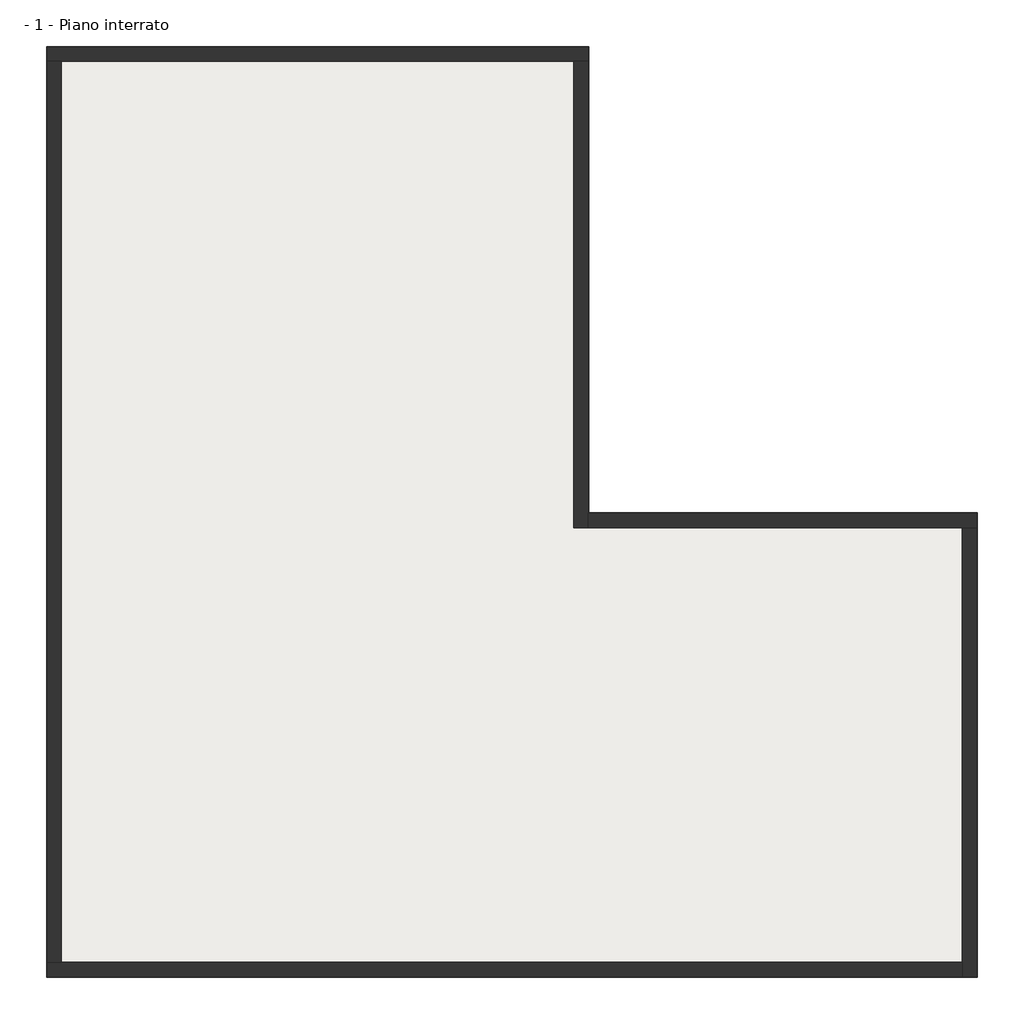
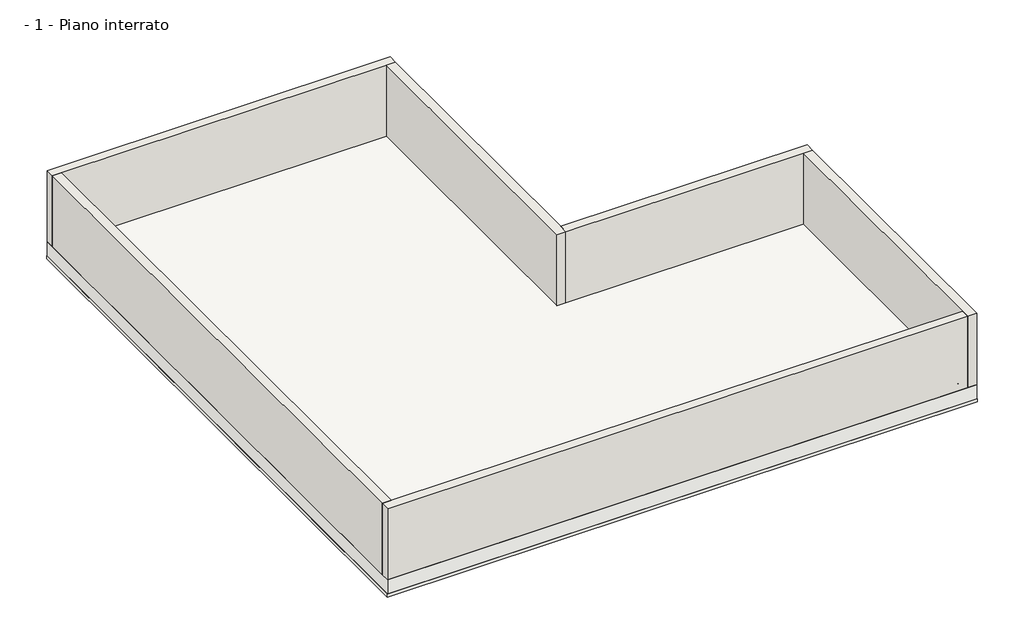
# One storey: 6 walls, 3 proxies, 2 slabs.
"""IFC4 building model written with IfcOpenShell, lengths in millimetres."""

from ifc_helpers import new_model, si_unit, frame, origin, place, context, project, spatial, polyline, outline, extrude, faceted_brep, transform, mapped, element, save
from components import generic_models_3b7ed561

model = new_model("IFC4")

# Units and contexts
model_context = context("Model", 3, world=origin())
ifc_project = project(units=[si_unit("LENGTHUNIT", "METRE", prefix="MILLI")], contexts=[model_context])

# Site, building, storey
site = spatial("IfcSite", under=ifc_project)
building = spatial("IfcBuilding", under=site)
storey = spatial("IfcBuildingStorey", under=building, Name="- 1 - Piano interrato", Elevation=-2500.0)

# Proxies
placement = place(None, origin())
element("IfcBuildingElementProxy", 1, Name="WT CONSTRUCTION VOLTECO", ObjectType="WT CONSTRUCTION VOLTECO", at=placement, inside=storey, context=model_context, shape_type="SweptSolid", body=[
    extrude(outline(polyline([(1584.8707384, -6023.4559577), (1609.8707384, -5998.4559577), (1609.8707384, -15493.2761472), (1584.8707384, -15468.2761472), (1584.8707384, -6023.4559577)])), frame((0.0, 0.0, -2500.0), z_axis=(0.0, 0.0, 1.0), x_axis=(1.0, 0.0, 0.0)), (0.0, 0.0, 1.0), 15.0),
    extrude(outline(polyline([(-6604.0891533, -6023.4559577), (-6579.0891533, -5998.4559577), (1609.8707384, -5998.4559577), (1584.8707384, -6023.4559577), (-6604.0891533, -6023.4559577)])), frame((0.0, 0.0, -2500.0), z_axis=(0.0, 0.0, 1.0), x_axis=(1.0, 0.0, 0.0)), (0.0, 0.0, 1.0), 15.0),
    extrude(outline(polyline([(-6604.0891533, 3800.503934), (-6579.0891533, 3825.503934), (-6579.0891533, -5998.4559577), (-6604.0891533, -6023.4559577), (-6604.0891533, 3800.503934)])), frame((0.0, 0.0, -2500.0), z_axis=(0.0, 0.0, 1.0), x_axis=(1.0, 0.0, 0.0)), (0.0, 0.0, 1.0), 15.0),
    extrude(outline(polyline([(-17680.0089367, 3800.503934), (-17705.0089367, 3825.503934), (-6579.0891533, 3825.503934), (-6604.0891533, 3800.503934), (-17680.0089367, 3800.503934)])), frame((0.0, 0.0, -2500.0), z_axis=(0.0, 0.0, 1.0), x_axis=(1.0, 0.0, 0.0)), (0.0, 0.0, 1.0), 15.0),
    extrude(outline(polyline([(-17680.0089367, -15468.2761472), (-17705.0089367, -15493.2761472), (-17705.0089367, 3825.503934), (-17680.0089367, 3800.503934), (-17680.0089367, -15468.2761472)])), frame((0.0, 0.0, -2500.0), z_axis=(0.0, 0.0, 1.0), x_axis=(1.0, 0.0, 0.0)), (0.0, 0.0, 1.0), 15.0),
    extrude(outline(polyline([(1584.8707384, -15468.2761472), (1609.8707384, -15493.2761472), (-17705.0089367, -15493.2761472), (-17680.0089367, -15468.2761472), (1584.8707384, -15468.2761472)])), frame((0.0, 0.0, -2500.0), z_axis=(0.0, 0.0, 1.0), x_axis=(1.0, 0.0, 0.0)), (0.0, 0.0, 1.0), 15.0),
])
generic_models_shape = generic_models_3b7ed561(model_context)
element("IfcBuildingElementProxy", 2, Name="ITA-Connettori su parete verticale sigillati con AKTI-VO 201 : ITA-Connettori su parete verticale sigillati con AKTI-VO 201", ObjectType="ITA-Connettori su parete verticale sigillati con AKTI-VO 201 : ITA-Connettori su parete verticale sigillati con AKTI-VO 201", at=placement, inside=storey, context=model_context, shape_type="MappedRepresentation", body=[
    mapped(generic_models_shape, transform((1122.4910633, -15630.7761472, -2255.1972589), x_axis=(-1.0, 0.0, 0.0), y_axis=(0.0, 0.0, 1.0), z_axis=(0.0, 1.0, 0.0))),
])
element("IfcBuildingElementProxy", 3, Name="ITA-Connettori su struttura orizzontale sigillati con AKTI-VO 201 : ITA-Connettori su struttura orizzontale sigillati con AKTI-VO 201", ObjectType="ITA-Connettori su struttura orizzontale sigillati con AKTI-VO 201 : ITA-Connettori su struttura orizzontale sigillati con AKTI-VO 201", at=placement, inside=storey, context=model_context, shape_type="MappedRepresentation", body=[
    mapped(generic_models_shape, transform((1122.4910633, -14710.7761472, -3000.0), x_axis=(-1.0, 0.0, 0.0), y_axis=(0.0, -1.0, 0.0), z_axis=(0.0, 0.0, 1.0))),
])

# Slabs
element("IfcSlab", 4, ObjectType="Magrone - 10 cm", at=placement, inside=storey, context=model_context, shape_type="SweptSolid", body=[
    extrude(outline(polyline([(-17857.5089367, 3978.003934), (-6426.5891533, 3978.003934), (-6426.5891533, -5845.9559577), (1762.3707384, -5845.9559577), (1762.3707384, -15645.7761472), (-17857.5089367, -15645.7761472), (-17857.5089367, 3978.003934)])), frame((0.0, 0.0, -3100.0), z_axis=(0.0, 0.0, 1.0), x_axis=(1.0, 0.0, 0.0)), (0.0, 0.0, 1.0), 100.0),
])
element("IfcSlab", 5, ObjectType="Platea - 50 cm", at=placement, inside=storey, context=model_context, shape_type="SweptSolid", body=[
    extrude(outline(polyline([(-17842.5089367, -15630.7761472), (-17842.5089367, 3963.003934), (-6441.5891533, 3963.003934), (-6441.5891533, -5860.9559577), (1747.3707384, -5860.9559577), (1747.3707384, -15630.7761472), (-17842.5089367, -15630.7761472)])), frame((0.0, 0.0, -3000.0), z_axis=(0.0, 0.0, 1.0), x_axis=(1.0, 0.0, 0.0)), (0.0, 0.0, 1.0), 500.0),
])

# Walls
element("IfcWall", 6, ObjectType="Generico - 30 cm", at=placement, inside=storey, context=model_context, shape_type="Brep", body=[
    faceted_brep([(-6441.5891533, 3663.003934, 0.0), (-6741.5891533, 3663.003934, 0.0), (-17542.5089367, 3663.003934, 0.0), (-17842.5089367, 3663.003934, 0.0), (-17842.5089367, 3663.003934, -2500.0), (-17705.0089367, 3663.003934, -2500.0), (-17705.0089367, 3663.003934, -2485.0), (-17680.0089367, 3663.003934, -2485.0), (-17680.0089367, 3663.003934, -2500.0), (-17542.5089367, 3663.003934, -2500.0), (-6741.5891533, 3663.003934, -2500.0), (-6604.0891533, 3663.003934, -2500.0), (-6604.0891533, 3663.003934, -2485.0), (-6579.0891533, 3663.003934, -2485.0), (-6579.0891533, 3663.003934, -2500.0), (-6441.5891533, 3663.003934, -2500.0), (-6441.5891533, 3963.003934, -2500.0), (-17842.5089367, 3963.003934, -2500.0), (-17842.5089367, 3963.003934, 0.0), (-6441.5891533, 3963.003934, 0.0), (-6579.0891533, 3825.503934, -2500.0), (-17705.0089367, 3825.503934, -2500.0), (-17680.0089367, 3800.503934, -2500.0), (-6604.0891533, 3800.503934, -2500.0), (-6604.0891533, 3800.503934, -2485.0), (-17680.0089367, 3800.503934, -2485.0), (-17705.0089367, 3825.503934, -2485.0), (-6579.0891533, 3825.503934, -2485.0)], [[[0, 1, 2, 3, 4, 5, 6, 7, 8, 9, 10, 11, 12, 13, 14, 15]], [[16, 17, 18, 19]], [[17, 16, 15, 14, 20, 21, 5, 4]], [[11, 10, 9, 8, 22, 23]], [[3, 2, 1, 0, 19, 18]], [[4, 3, 18, 17]], [[0, 15, 16, 19]], [[24, 25, 7, 6, 26, 27, 13, 12]], [[21, 26, 6, 5]], [[27, 26, 21, 20]], [[27, 20, 14, 13]], [[25, 22, 8, 7]], [[22, 25, 24, 23]], [[23, 24, 12, 11]]]),
])
element("IfcWall", 7, ObjectType="Generico - 30 cm", at=placement, inside=storey, context=model_context, shape_type="Brep", body=[
    faceted_brep([(-6741.5891533, 3663.003934, -2500.0), (-6741.5891533, -6160.9559577, -2500.0), (-6741.5891533, -6160.9559577, 0.0), (-6741.5891533, 3663.003934, 0.0), (-6441.5891533, 3663.003934, 0.0), (-6441.5891533, -5860.9559577, 0.0), (-6441.5891533, -6160.9559577, 0.0), (-6441.5891533, -6160.9559577, -2500.0), (-6441.5891533, -6023.4559577, -2500.0), (-6441.5891533, -6023.4559577, -2485.0), (-6441.5891533, -5998.4559577, -2485.0), (-6441.5891533, -5998.4559577, -2500.0), (-6441.5891533, -5860.9559577, -2500.0), (-6441.5891533, 3663.003934, -2500.0), (-6604.0891533, 3663.003934, -2500.0), (-6604.0891533, -6023.4559577, -2500.0), (-6579.0891533, -5998.4559577, -2500.0), (-6579.0891533, 3663.003934, -2500.0), (-6579.0891533, 3663.003934, -2485.0), (-6604.0891533, 3663.003934, -2485.0), (-6604.0891533, -6023.4559577, -2485.0), (-6579.0891533, -5998.4559577, -2485.0)], [[[0, 1, 2, 3]], [[4, 5, 6, 7, 8, 9, 10, 11, 12, 13]], [[1, 0, 14, 15, 8, 7]], [[13, 12, 11, 16, 17]], [[3, 2, 6, 5, 4]], [[2, 1, 7, 6]], [[0, 3, 4, 13, 17, 18, 19, 14]], [[9, 20, 19, 18, 21, 10]], [[16, 21, 18, 17]], [[21, 16, 11, 10]], [[20, 15, 14, 19]], [[15, 20, 9, 8]]]),
])
element("IfcWall", 8, ObjectType="Generico - 30 cm", at=placement, inside=storey, context=model_context, shape_type="Brep", body=[
    faceted_brep([(1747.3707384, -6160.9559577, 0.0), (1447.3707384, -6160.9559577, 0.0), (-6441.5891533, -6160.9559577, 0.0), (-6441.5891533, -6160.9559577, -2500.0), (1447.3707384, -6160.9559577, -2500.0), (1584.8707384, -6160.9559577, -2500.0), (1584.8707384, -6160.9559577, -2485.0), (1609.8707384, -6160.9559577, -2485.0), (1609.8707384, -6160.9559577, -2500.0), (1747.3707384, -6160.9559577, -2500.0), (1747.3707384, -5860.9559577, -2500.0), (-6441.5891533, -5860.9559577, -2500.0), (-6441.5891533, -5860.9559577, 0.0), (1747.3707384, -5860.9559577, 0.0), (1609.8707384, -5998.4559577, -2500.0), (-6441.5891533, -5998.4559577, -2500.0), (-6441.5891533, -6023.4559577, -2500.0), (1584.8707384, -6023.4559577, -2500.0), (-6441.5891533, -5998.4559577, -2485.0), (-6441.5891533, -6023.4559577, -2485.0), (1584.8707384, -6023.4559577, -2485.0), (1609.8707384, -5998.4559577, -2485.0)], [[[0, 1, 2, 3, 4, 5, 6, 7, 8, 9]], [[10, 11, 12, 13]], [[11, 10, 9, 8, 14, 15]], [[5, 4, 3, 16, 17]], [[2, 1, 0, 13, 12]], [[3, 2, 12, 11, 15, 18, 19, 16]], [[0, 9, 10, 13]], [[6, 20, 19, 18, 21, 7]], [[14, 21, 18, 15]], [[21, 14, 8, 7]], [[20, 17, 16, 19]], [[17, 20, 6, 5]]]),
])
element("IfcWall", 9, ObjectType="Generico - 30 cm", at=placement, inside=storey, context=model_context, shape_type="Brep", body=[
    faceted_brep([(1447.3707384, -15630.7761472, 0.0), (1447.3707384, -15330.7761472, 0.0), (1447.3707384, -6160.9559577, 0.0), (1447.3707384, -6160.9559577, -2500.0), (1447.3707384, -15330.7761472, -2500.0), (1447.3707384, -15468.2761472, -2500.0), (1447.3707384, -15468.2761472, -2485.0), (1447.3707384, -15493.2761472, -2485.0), (1447.3707384, -15493.2761472, -2500.0), (1447.3707384, -15630.7761472, -2500.0), (1747.3707384, -15630.7761472, -2500.0), (1747.3707384, -6160.9559577, -2500.0), (1747.3707384, -6160.9559577, 0.0), (1747.3707384, -15630.7761472, 0.0), (1609.8707384, -15493.2761472, -2500.0), (1609.8707384, -6160.9559577, -2500.0), (1584.8707384, -6160.9559577, -2500.0), (1584.8707384, -15468.2761472, -2500.0), (1609.8707384, -6160.9559577, -2485.0), (1584.8707384, -6160.9559577, -2485.0), (1584.8707384, -15468.2761472, -2485.0), (1609.8707384, -15493.2761472, -2485.0)], [[[0, 1, 2, 3, 4, 5, 6, 7, 8, 9]], [[10, 11, 12, 13]], [[11, 10, 9, 8, 14, 15]], [[5, 4, 3, 16, 17]], [[2, 1, 0, 13, 12]], [[3, 2, 12, 11, 15, 18, 19, 16]], [[0, 9, 10, 13]], [[6, 20, 19, 18, 21, 7]], [[14, 21, 18, 15]], [[21, 14, 8, 7]], [[20, 17, 16, 19]], [[17, 20, 6, 5]]]),
])
element("IfcWall", 10, ObjectType="Generico - 30 cm", at=placement, inside=storey, context=model_context, shape_type="Brep", body=[
    faceted_brep([(-17842.5089367, -15330.7761472, 0.0), (-17542.5089367, -15330.7761472, 0.0), (1447.3707384, -15330.7761472, 0.0), (1447.3707384, -15330.7761472, -2500.0), (-17542.5089367, -15330.7761472, -2500.0), (-17680.0089367, -15330.7761472, -2500.0), (-17680.0089367, -15330.7761472, -2485.0), (-17705.0089367, -15330.7761472, -2485.0), (-17705.0089367, -15330.7761472, -2500.0), (-17842.5089367, -15330.7761472, -2500.0), (-17842.5089367, -15630.7761472, -2500.0), (1447.3707384, -15630.7761472, -2500.0), (1447.3707384, -15630.7761472, 0.0), (-17842.5089367, -15630.7761472, 0.0), (-17705.0089367, -15493.2761472, -2500.0), (1447.3707384, -15493.2761472, -2500.0), (1447.3707384, -15468.2761472, -2500.0), (-17680.0089367, -15468.2761472, -2500.0), (1447.3707384, -15493.2761472, -2485.0), (1447.3707384, -15468.2761472, -2485.0), (-17680.0089367, -15468.2761472, -2485.0), (-17705.0089367, -15493.2761472, -2485.0)], [[[0, 1, 2, 3, 4, 5, 6, 7, 8, 9]], [[10, 11, 12, 13]], [[11, 10, 9, 8, 14, 15]], [[5, 4, 3, 16, 17]], [[2, 1, 0, 13, 12]], [[3, 2, 12, 11, 15, 18, 19, 16]], [[0, 9, 10, 13]], [[6, 20, 19, 18, 21, 7]], [[14, 21, 18, 15]], [[21, 14, 8, 7]], [[20, 17, 16, 19]], [[17, 20, 6, 5]]]),
])
element("IfcWall", 11, ObjectType="Generico - 30 cm", at=placement, inside=storey, context=model_context, shape_type="SweptSolid", body=[
    extrude(outline(polyline([(-2500.0, -17542.5089367), (0.0, -17542.5089367), (0.0, -17842.5089367), (-2500.0, -17842.5089367), (-2500.0, -17705.0089367), (-2485.0, -17705.0089367), (-2485.0, -17680.0089367), (-2500.0, -17680.0089367), (-2500.0, -17542.5089367)])), frame((0.0, -15330.7761472, 0.0), z_axis=(0.0, 1.0, 0.0), x_axis=(0.0, 0.0, 1.0)), (0.0, 0.0, 1.0), 18993.7800812),
])

save(model, "model.ifc")
